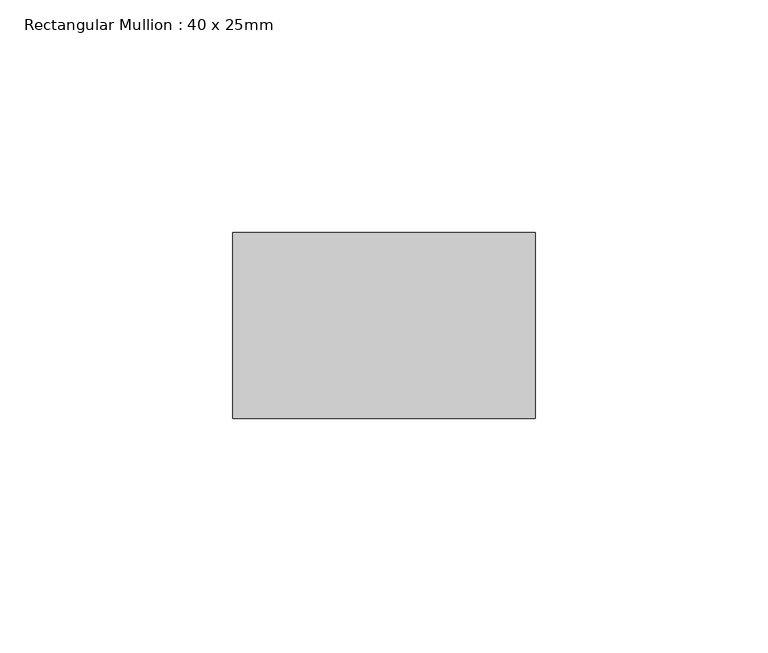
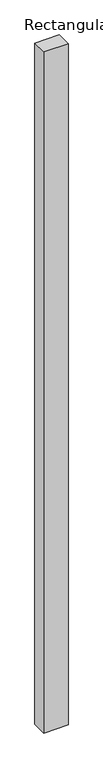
"""IFC4 building model written with IfcOpenShell, lengths in millimetres: member geometry, Rectangular Mullion : 40 x 25mm."""

from ifc_helpers import new_model, si_unit, frame, origin, place, context, project, spatial, polyline, outline, extrude, source, transform, mapped, element, save


def rectangular_mullion_40_x_25mm_f13b7c65(model_context):
    return source(origin(), model_context, "Body", "SweptSolid", [
        extrude(outline(polyline([(0.0, -20.0), (0.0, -60.0), (-65.0, -60.0), (-65.0, -20.0), (0.0, -20.0)])), frame((0.0, 0.0, -1913.2), z_axis=(0.0, 0.0, 1.0), x_axis=(1.0, 0.0, 0.0)), (0.0, 0.0, 1.0), 1913.2),
    ])


if __name__ == "__main__":
    model = new_model("IFC4")
    model_context = context("Model", 3, world=origin())
    ifc_project = project(units=[si_unit("LENGTHUNIT", "METRE", prefix="MILLI")], contexts=[model_context])
    site = spatial("IfcSite", under=ifc_project)
    building = spatial("IfcBuilding", under=site)
    placement = place(None, origin())
    rectangular_mullion_40_x_25mm_shape = rectangular_mullion_40_x_25mm_f13b7c65(model_context)
    element("IfcMember", 1, ObjectType="Rectangular Mullion : 40 x 25mm", at=placement, inside=building, context=model_context, shape_type="MappedRepresentation", body=[
        mapped(rectangular_mullion_40_x_25mm_shape, transform((0.0, 0.0, 0.0), x_axis=(1.0, 0.0, 0.0), y_axis=(0.0, 1.0, 0.0), z_axis=(0.0, 0.0, 1.0))),
    ])
    save(model, "model.ifc")
